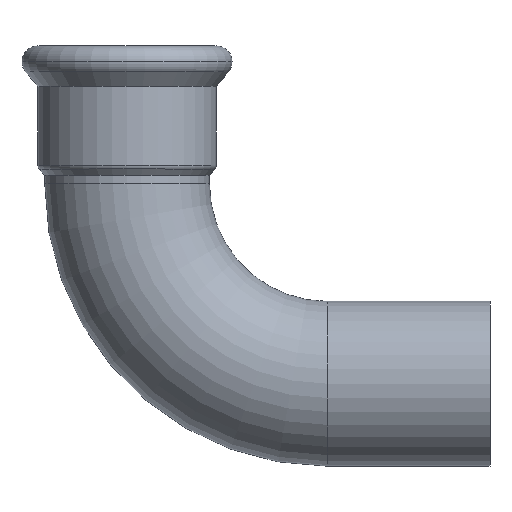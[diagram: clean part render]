
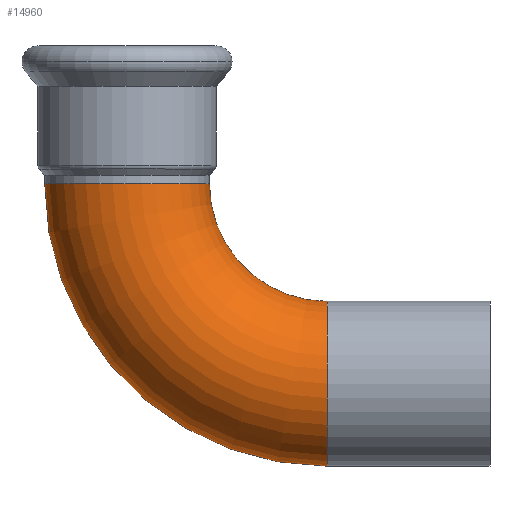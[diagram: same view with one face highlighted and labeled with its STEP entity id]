
A CAD part, top view. The second image highlights one B-rep face of the part: STEP entity #14960.
In plain terms, the highlighted toroidal (fillet/blend) face has major radius 51 mm and minor radius 21 mm.
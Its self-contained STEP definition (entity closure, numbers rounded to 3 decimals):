
#570=CARTESIAN_POINT('',(-29.154,195.031,
0.));
#580=VERTEX_POINT('',#570);
#820=CARTESIAN_POINT('',(-71.154,195.031,0.));
#830=VERTEX_POINT('',#820);
#14570=CARTESIAN_POINT('',(0.846,195.031,0.));
#14580=DIRECTION('',(0.,0.,1.));
#14590=DIRECTION('',(-1.,0.,0.));
#14600=AXIS2_PLACEMENT_3D('',#14570,#14580,#14590);
#14610=TOROIDAL_SURFACE('',#14600,51.,21.);
#14620=CARTESIAN_POINT('',(0.846,195.031,
0.));
#14630=DIRECTION('',(0.,0.,1.));
#14640=DIRECTION('',(-1.,0.,0.));
#14650=AXIS2_PLACEMENT_3D('',#14620,#14630,#14640);
#14660=CIRCLE('',#14650,72.);
#14670=CARTESIAN_POINT('',(0.846,123.031,
0.));
#14680=VERTEX_POINT('',#14670);
#14690=EDGE_CURVE('',#830,#14680,#14660,.T.);
#14700=ORIENTED_EDGE('',*,*,#14690,.T.);
#14710=CARTESIAN_POINT('',(-50.154,195.031,0.));
#14720=DIRECTION('',(0.,-1.,0.));
#14730=DIRECTION('',(-1.,0.,0.));
#14740=AXIS2_PLACEMENT_3D('',#14710,#14720,#14730);
#14750=CIRCLE('',#14740,21.);
#14760=EDGE_CURVE('',#580,#830,#14750,.T.);
#14770=ORIENTED_EDGE('',*,*,#14760,.T.);
#14780=CARTESIAN_POINT('',(0.846,195.031,
0.));
#14790=DIRECTION('',(0.,0.,1.));
#14800=DIRECTION('',(-1.,0.,0.));
#14810=AXIS2_PLACEMENT_3D('',#14780,#14790,#14800);
#14820=CIRCLE('',#14810,30.);
#14830=CARTESIAN_POINT('',(0.846,165.031,
0.));
#14840=VERTEX_POINT('',#14830);
#14850=EDGE_CURVE('',#580,#14840,#14820,.T.);
#14860=ORIENTED_EDGE('',*,*,#14850,.F.);
#14870=CARTESIAN_POINT('',(0.846,144.031,0.));
#14880=DIRECTION('',(1.,0.,0.));
#14890=DIRECTION('',(0.,-1.,0.));
#14900=AXIS2_PLACEMENT_3D('',#14870,#14880,#14890);
#14910=CIRCLE('',#14900,21.);
#14920=EDGE_CURVE('',#14840,#14680,#14910,.T.);
#14930=ORIENTED_EDGE('',*,*,#14920,.F.);
#14940=EDGE_LOOP('',(#14930,#14860,#14770,#14700));
#14950=FACE_OUTER_BOUND('',#14940,.T.);
#14960=ADVANCED_FACE('',(#14950),#14610,.T.);
